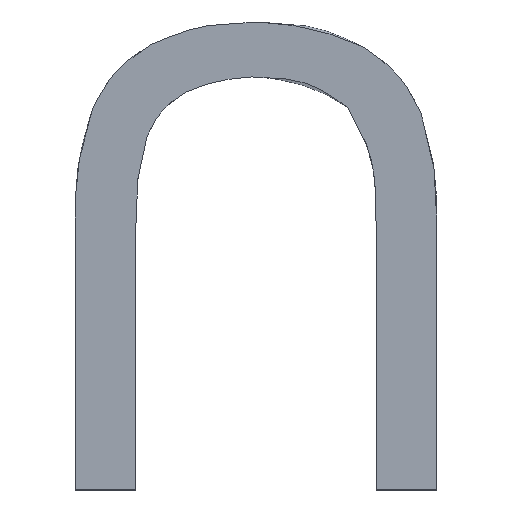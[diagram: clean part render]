
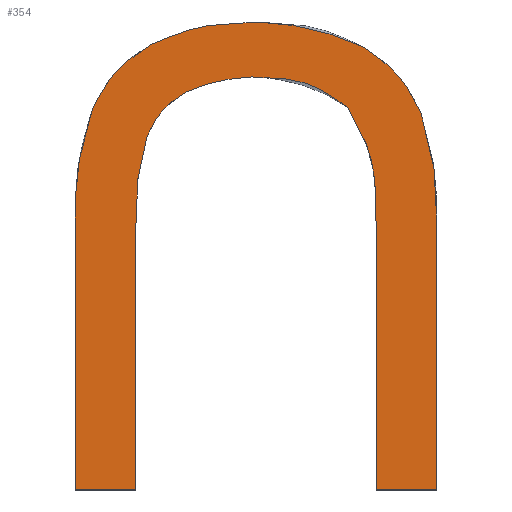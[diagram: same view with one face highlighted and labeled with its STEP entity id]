
A CAD part, top view. The second image highlights one B-rep face of the part: STEP entity #354.
In plain terms, the highlighted planar face has unit normal (0, 0, 1).
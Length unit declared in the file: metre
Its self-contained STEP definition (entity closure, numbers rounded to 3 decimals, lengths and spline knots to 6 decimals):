
#12=B_SPLINE_CURVE_WITH_KNOTS('',3,(#441,#442,#443,#444,#445),
 .UNSPECIFIED.,.F.,.F.,(4,1,4),(0.,0.01107,0.019836),
 .UNSPECIFIED.);
#14=B_SPLINE_CURVE_WITH_KNOTS('',3,(#464,#465,#466,#467,#468),
 .UNSPECIFIED.,.F.,.F.,(4,1,4),(0.,0.007644,0.01571),
 .UNSPECIFIED.);
#16=B_SPLINE_CURVE_WITH_KNOTS('',3,(#485,#486,#487,#488),.UNSPECIFIED.,
 .F.,.F.,(4,4),(0.,0.000199),.UNSPECIFIED.);
#18=B_SPLINE_CURVE_WITH_KNOTS('',3,(#507,#508,#509,#510,#511),
 .UNSPECIFIED.,.F.,.F.,(4,1,4),(0.,0.010482,0.01934),
 .UNSPECIFIED.);
#20=B_SPLINE_CURVE_WITH_KNOTS('',3,(#529,#530,#531,#532,#533),
 .UNSPECIFIED.,.F.,.F.,(4,1,4),(0.,0.00791,0.015724),
 .UNSPECIFIED.);
#22=B_SPLINE_CURVE_WITH_KNOTS('',3,(#552,#553,#554,#555,#556),
 .UNSPECIFIED.,.F.,.F.,(4,1,4),(0.,0.009172,0.020811),
 .UNSPECIFIED.);
#24=B_SPLINE_CURVE_WITH_KNOTS('',3,(#593,#594,#595,#596,#597),
 .UNSPECIFIED.,.F.,.F.,(4,1,4),(0.,0.009257,0.01587),
 .UNSPECIFIED.);
#26=B_SPLINE_CURVE_WITH_KNOTS('',3,(#616,#617,#618,#619,#620),
 .UNSPECIFIED.,.F.,.F.,(4,1,4),(0.,0.005212,0.010489),
 .UNSPECIFIED.);
#28=B_SPLINE_CURVE_WITH_KNOTS('',3,(#639,#640,#641,#642),.UNSPECIFIED.,
 .F.,.F.,(4,4),(0.,0.000122),
 .UNSPECIFIED.);
#30=B_SPLINE_CURVE_WITH_KNOTS('',3,(#659,#660,#661,#662,#663),
 .UNSPECIFIED.,.F.,.F.,(4,1,4),(0.,0.010302,0.018206),
 .UNSPECIFIED.);
#32=B_SPLINE_CURVE_WITH_KNOTS('',3,(#679,#680,#681,#682,#683),
 .UNSPECIFIED.,.F.,.F.,(4,1,4),(0.,0.008768,0.021717),
 .UNSPECIFIED.);
#130=ORIENTED_EDGE('',*,*,#196,.T.);
#131=ORIENTED_EDGE('',*,*,#147,.T.);
#132=ORIENTED_EDGE('',*,*,#151,.T.);
#133=ORIENTED_EDGE('',*,*,#154,.T.);
#134=ORIENTED_EDGE('',*,*,#157,.T.);
#135=ORIENTED_EDGE('',*,*,#160,.T.);
#136=ORIENTED_EDGE('',*,*,#163,.T.);
#137=ORIENTED_EDGE('',*,*,#166,.T.);
#138=ORIENTED_EDGE('',*,*,#169,.T.);
#139=ORIENTED_EDGE('',*,*,#172,.T.);
#140=ORIENTED_EDGE('',*,*,#175,.T.);
#141=ORIENTED_EDGE('',*,*,#178,.T.);
#142=ORIENTED_EDGE('',*,*,#181,.T.);
#143=ORIENTED_EDGE('',*,*,#184,.T.);
#144=ORIENTED_EDGE('',*,*,#187,.T.);
#145=ORIENTED_EDGE('',*,*,#190,.T.);
#146=ORIENTED_EDGE('',*,*,#193,.T.);
#147=EDGE_CURVE('',#198,#199,#232,.F.);
#151=EDGE_CURVE('',#199,#202,#236,.F.);
#154=EDGE_CURVE('',#202,#204,#12,.T.);
#157=EDGE_CURVE('',#204,#206,#14,.T.);
#160=EDGE_CURVE('',#206,#208,#16,.T.);
#163=EDGE_CURVE('',#208,#210,#18,.T.);
#166=EDGE_CURVE('',#210,#212,#20,.T.);
#169=EDGE_CURVE('',#212,#214,#22,.T.);
#172=EDGE_CURVE('',#214,#216,#245,.T.);
#175=EDGE_CURVE('',#216,#218,#248,.F.);
#178=EDGE_CURVE('',#218,#220,#251,.F.);
#181=EDGE_CURVE('',#220,#222,#24,.T.);
#184=EDGE_CURVE('',#222,#224,#26,.T.);
#187=EDGE_CURVE('',#224,#226,#28,.T.);
#190=EDGE_CURVE('',#226,#228,#30,.T.);
#193=EDGE_CURVE('',#228,#230,#32,.T.);
#196=EDGE_CURVE('',#230,#198,#259,.T.);
#198=VERTEX_POINT('',#418);
#199=VERTEX_POINT('',#419);
#202=VERTEX_POINT('',#427);
#204=VERTEX_POINT('',#446);
#206=VERTEX_POINT('',#469);
#208=VERTEX_POINT('',#489);
#210=VERTEX_POINT('',#512);
#212=VERTEX_POINT('',#534);
#214=VERTEX_POINT('',#557);
#216=VERTEX_POINT('',#567);
#218=VERTEX_POINT('',#573);
#220=VERTEX_POINT('',#579);
#222=VERTEX_POINT('',#598);
#224=VERTEX_POINT('',#621);
#226=VERTEX_POINT('',#643);
#228=VERTEX_POINT('',#664);
#230=VERTEX_POINT('',#684);
#232=LINE('',#417,#261);
#236=LINE('',#426,#265);
#245=LINE('',#566,#274);
#248=LINE('',#572,#277);
#251=LINE('',#578,#280);
#259=LINE('',#693,#288);
#261=VECTOR('',#372,1.);
#265=VECTOR('',#378,1.);
#274=VECTOR('',#389,1.);
#277=VECTOR('',#394,1.);
#280=VECTOR('',#399,1.);
#288=VECTOR('',#409,1.);
#308=EDGE_LOOP('',(#130,#131,#132,#133,#134,#135,#136,#137,#138,#139,#140,
#141,#142,#143,#144,#145,#146));
#327=FACE_BOUND('',#308,.T.);
#335=PLANE('',#367);
#354=ADVANCED_FACE('',(#327),#335,.F.);
#367=AXIS2_PLACEMENT_3D('',#696,#413,#414);
#372=DIRECTION('',(-1.,0.,0.));
#378=DIRECTION('',(0.,-1.,0.));
#389=DIRECTION('',(0.,-1.,0.));
#394=DIRECTION('',(-1.,0.,0.));
#399=DIRECTION('',(0.,-1.,0.));
#409=DIRECTION('',(0.,-1.,0.));
#413=DIRECTION('',(0.,0.,-1.));
#414=DIRECTION('',(0.,-1.,0.));
#417=CARTESIAN_POINT('',(-0.04158,0.005942,-0.03));
#418=CARTESIAN_POINT('',(-0.040534,0.005942,-0.03));
#419=CARTESIAN_POINT('',(-0.040426,0.005942,-0.03));
#426=CARTESIAN_POINT('',(-0.040426,0.00635,-0.03));
#427=CARTESIAN_POINT('',(-0.040426,0.006414,-0.03));
#441=CARTESIAN_POINT('',(-0.040426,0.006414,-0.03));
#442=CARTESIAN_POINT('',(-0.040426,0.006451,-0.03));
#443=CARTESIAN_POINT('',(-0.040427,0.006517,-0.03));
#444=CARTESIAN_POINT('',(-0.040446,0.006581,-0.03));
#445=CARTESIAN_POINT('',(-0.040454,0.006609,-0.03));
#446=CARTESIAN_POINT('',(-0.040454,0.006609,-0.03));
#464=CARTESIAN_POINT('',(-0.040454,0.006609,-0.03));
#465=CARTESIAN_POINT('',(-0.040465,0.006632,-0.03));
#466=CARTESIAN_POINT('',(-0.040489,0.00668,-0.03));
#467=CARTESIAN_POINT('',(-0.040532,0.006711,-0.03));
#468=CARTESIAN_POINT('',(-0.040554,0.006727,-0.03));
#469=CARTESIAN_POINT('',(-0.040554,0.006727,-0.03));
#485=CARTESIAN_POINT('',(-0.040554,0.006727,-0.03));
#486=CARTESIAN_POINT('',(-0.040614,0.006756,-0.03));
#487=CARTESIAN_POINT('',(-0.040679,0.00677,-0.03));
#488=CARTESIAN_POINT('',(-0.040745,0.006772,-0.03));
#489=CARTESIAN_POINT('',(-0.040745,0.006772,-0.03));
#507=CARTESIAN_POINT('',(-0.040745,0.006772,-0.03));
#508=CARTESIAN_POINT('',(-0.040781,0.006771,-0.03));
#509=CARTESIAN_POINT('',(-0.040846,0.00677,-0.03));
#510=CARTESIAN_POINT('',(-0.040906,0.006744,-0.03));
#511=CARTESIAN_POINT('',(-0.040933,0.006733,-0.03));
#512=CARTESIAN_POINT('',(-0.040933,0.006733,-0.03));
#529=CARTESIAN_POINT('',(-0.040933,0.006733,-0.03));
#530=CARTESIAN_POINT('',(-0.040956,0.006718,-0.03));
#531=CARTESIAN_POINT('',(-0.041,0.006689,-0.03));
#532=CARTESIAN_POINT('',(-0.041025,0.006642,-0.03));
#533=CARTESIAN_POINT('',(-0.041037,0.006618,-0.03));
#534=CARTESIAN_POINT('',(-0.041037,0.006618,-0.03));
#552=CARTESIAN_POINT('',(-0.041037,0.006618,-0.03));
#553=CARTESIAN_POINT('',(-0.041046,0.006589,-0.03));
#554=CARTESIAN_POINT('',(-0.041067,0.006522,-0.03));
#555=CARTESIAN_POINT('',(-0.041068,0.006453,-0.03));
#556=CARTESIAN_POINT('',(-0.041069,0.006414,-0.03));
#557=CARTESIAN_POINT('',(-0.041069,0.006414,-0.03));
#566=CARTESIAN_POINT('',(-0.041069,0.00635,-0.03));
#567=CARTESIAN_POINT('',(-0.041069,0.005942,-0.03));
#572=CARTESIAN_POINT('',(-0.04158,0.005942,-0.03));
#573=CARTESIAN_POINT('',(-0.04096,0.005942,-0.03));
#578=CARTESIAN_POINT('',(-0.04096,0.00635,-0.03));
#579=CARTESIAN_POINT('',(-0.04096,0.006413,-0.03));
#593=CARTESIAN_POINT('',(-0.04096,0.006413,-0.03));
#594=CARTESIAN_POINT('',(-0.04096,0.006444,-0.03));
#595=CARTESIAN_POINT('',(-0.04096,0.006497,-0.03));
#596=CARTESIAN_POINT('',(-0.040946,0.006548,-0.03));
#597=CARTESIAN_POINT('',(-0.040941,0.00657,-0.03));
#598=CARTESIAN_POINT('',(-0.040941,0.00657,-0.03));
#616=CARTESIAN_POINT('',(-0.040941,0.00657,-0.03));
#617=CARTESIAN_POINT('',(-0.040933,0.006586,-0.03));
#618=CARTESIAN_POINT('',(-0.040917,0.006618,-0.03));
#619=CARTESIAN_POINT('',(-0.040887,0.006638,-0.03));
#620=CARTESIAN_POINT('',(-0.040873,0.006648,-0.03));
#621=CARTESIAN_POINT('',(-0.040873,0.006648,-0.03));
#639=CARTESIAN_POINT('',(-0.040873,0.006648,-0.03));
#640=CARTESIAN_POINT('',(-0.040835,0.006664,-0.03));
#641=CARTESIAN_POINT('',(-0.040795,0.006673,-0.03));
#642=CARTESIAN_POINT('',(-0.040755,0.006675,-0.03));
#643=CARTESIAN_POINT('',(-0.040755,0.006675,-0.03));
#659=CARTESIAN_POINT('',(-0.040755,0.006675,-0.03));
#660=CARTESIAN_POINT('',(-0.040719,0.006674,-0.03));
#661=CARTESIAN_POINT('',(-0.040657,0.006673,-0.03));
#662=CARTESIAN_POINT('',(-0.040607,0.006637,-0.03));
#663=CARTESIAN_POINT('',(-0.040585,0.006621,-0.03));
#664=CARTESIAN_POINT('',(-0.040585,0.006621,-0.03));
#679=CARTESIAN_POINT('',(-0.040585,0.006621,-0.03));
#680=CARTESIAN_POINT('',(-0.04057,0.006595,-0.03));
#681=CARTESIAN_POINT('',(-0.040534,0.006531,-0.03));
#682=CARTESIAN_POINT('',(-0.040534,0.006457,-0.03));
#683=CARTESIAN_POINT('',(-0.040534,0.006413,-0.03));
#684=CARTESIAN_POINT('',(-0.040534,0.006413,-0.03));
#693=CARTESIAN_POINT('',(-0.040534,0.00635,-0.03));
#696=CARTESIAN_POINT('',(-0.04158,0.00635,-0.03));
